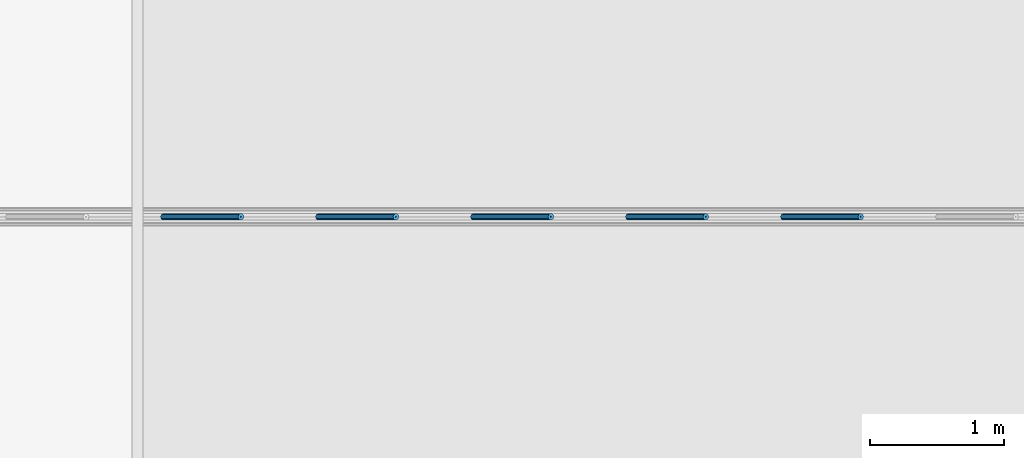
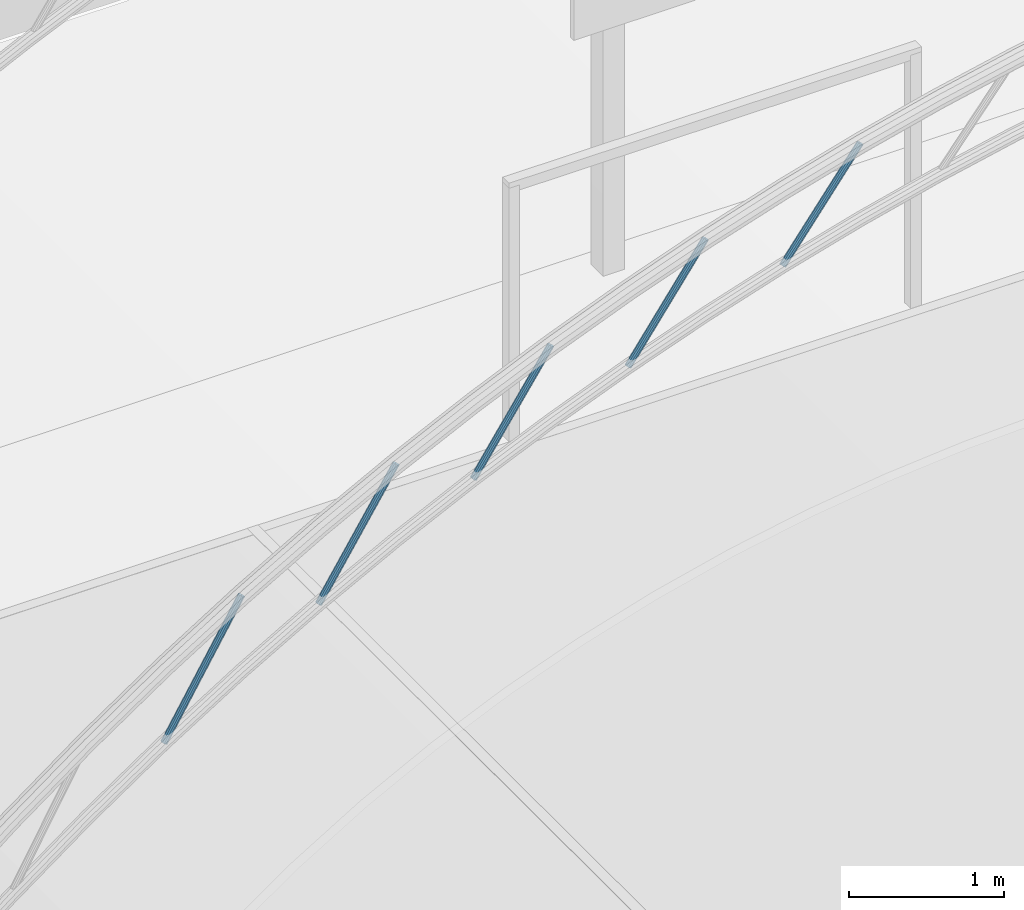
# One storey, part 20 of 151: 5 beams.
"""IFC2X3 building model written with IfcOpenShell, lengths in metres."""

from ifc_helpers import new_model, si_unit, origin, origin_with_axes, place, context, subcontext, project, spatial, faceted_brep, element, save


model = new_model("IFC2X3")

# Units and contexts
model_context = context("Model", 3, precision=1e-05, world=origin_with_axes())
body_context = subcontext(model_context, "Body", "Model", "MODEL_VIEW")
ifc_project = project(units=[si_unit("LENGTHUNIT", "METRE"), si_unit("AREAUNIT", "SQUARE_METRE"), si_unit("VOLUMEUNIT", "CUBIC_METRE"), si_unit("PLANEANGLEUNIT", "RADIAN")], contexts=[model_context])

# Site, building, storey
site_placement = place(None, origin_with_axes())
site = spatial("IfcSite", under=ifc_project, at=site_placement, Name="Predio Los Mangos - Morales, San Martín", CompositionType="ELEMENT")
building_placement = place(site_placement, origin())
building = spatial("IfcBuilding", under=site, at=building_placement, Name="Hogar de Refugio Temporal", CompositionType="ELEMENT")
storey_placement = place(building_placement, origin())
storey = spatial("IfcBuildingStorey", under=building, at=storey_placement, Name="NIVEL 1 (NPT +0.00)", CompositionType="ELEMENT", Elevation=0.0)

# Beams
beam_1_placement = place(storey_placement, origin())
element("IfcBeam", 1, at=beam_1_placement, inside=storey, Name="diag", ObjectType="Viga", context=body_context, shape_type="Brep", body=[
    faceted_brep([(5.2218, 115.555, 6.6398), (5.7993, 115.555, 7.6007), (5.81, 115.5583, 7.5943), (5.2325, 115.5583, 6.6333), (5.2139, 115.5458, 6.6445), (5.7914, 115.5458, 7.6055), (5.2111, 115.5333, 6.6462), (5.7886, 115.5333, 7.6072), (5.2139, 115.5208, 6.6445), (5.7914, 115.5208, 7.6055), (5.2218, 115.5117, 6.6398), (5.7993, 115.5117, 7.6007), (5.2325, 115.5083, 6.6333), (5.81, 115.5083, 7.5943), (5.2432, 115.5117, 6.6269), (5.8207, 115.5117, 7.5879), (5.2511, 115.5208, 6.6222), (5.8286, 115.5208, 7.5832), (5.2539, 115.5333, 6.6205), (5.8314, 115.5333, 7.5814), (5.2511, 115.5458, 6.6222), (5.8286, 115.5458, 7.5832), (5.2432, 115.555, 6.6269), (5.8207, 115.555, 7.5879), (5.2307, 115.5371, 6.6345), (5.2325, 115.5376, 6.6333), (5.81, 115.5376, 7.5943), (5.8082, 115.5371, 7.5954), (5.2293, 115.5355, 6.6353), (5.8068, 115.5355, 7.5962), (5.2288, 115.5333, 6.6356), (5.8063, 115.5333, 7.5965), (5.2293, 115.5312, 6.6353), (5.8068, 115.5312, 7.5962), (5.2307, 115.5296, 6.6345), (5.8082, 115.5296, 7.5954), (5.2325, 115.529, 6.6333), (5.81, 115.529, 7.5943), (5.2343, 115.5296, 6.6322), (5.8118, 115.5296, 7.5932), (5.2357, 115.5312, 6.6314), (5.8132, 115.5312, 7.5924), (5.2362, 115.5333, 6.6311), (5.8137, 115.5333, 7.5921), (5.2357, 115.5355, 6.6314), (5.8132, 115.5355, 7.5924), (5.2343, 115.5371, 6.6322), (5.8118, 115.5371, 7.5932)], [[[0, 1, 2, 3]], [[4, 5, 1, 0]], [[6, 7, 5, 4]], [[8, 9, 7, 6]], [[10, 11, 9, 8]], [[12, 13, 11, 10]], [[14, 15, 13, 12]], [[16, 17, 15, 14]], [[18, 19, 17, 16]], [[20, 21, 19, 18]], [[22, 23, 21, 20]], [[3, 2, 23, 22]], [[24, 25, 26, 27]], [[28, 24, 27, 29]], [[30, 28, 29, 31]], [[32, 30, 31, 33]], [[34, 32, 33, 35]], [[36, 34, 35, 37]], [[38, 36, 37, 39]], [[40, 38, 39, 41]], [[42, 40, 41, 43]], [[44, 42, 43, 45]], [[46, 44, 45, 47]], [[25, 46, 47, 26]], [[4, 0, 24, 28]], [[14, 12, 36, 38]], [[3, 22, 46, 25]], [[7, 9, 33, 31]], [[17, 19, 43, 41]], [[23, 2, 26, 47]], [[10, 8, 32, 34]], [[20, 18, 42, 44]], [[1, 5, 29, 27]], [[13, 15, 39, 37]], [[6, 4, 28, 30]], [[16, 14, 38, 40]], [[0, 3, 25, 24]], [[9, 11, 35, 33]], [[19, 21, 45, 43]], [[12, 10, 34, 36]], [[22, 20, 44, 46]], [[5, 7, 31, 29]], [[15, 17, 41, 39]], [[2, 1, 27, 26]], [[8, 6, 30, 32]], [[18, 16, 40, 42]], [[11, 13, 37, 35]], [[21, 23, 47, 45]]]),
])
beam_2_placement = place(storey_placement, origin())
element("IfcBeam", 2, at=beam_2_placement, inside=storey, Name="diag", ObjectType="Viga", context=body_context, shape_type="Brep", body=[
    faceted_brep([(6.377, 115.555, 7.3326), (6.9545, 115.555, 8.2366), (6.965, 115.5583, 8.2298), (6.3875, 115.5583, 7.3259), (6.3693, 115.5458, 7.3375), (6.9468, 115.5458, 8.2415), (6.3664, 115.5333, 7.3393), (6.9439, 115.5333, 8.2433), (6.3693, 115.5208, 7.3375), (6.9468, 115.5208, 8.2415), (6.377, 115.5117, 7.3326), (6.9545, 115.5117, 8.2366), (6.3875, 115.5083, 7.3259), (6.965, 115.5083, 8.2298), (6.398, 115.5117, 7.3191), (6.9755, 115.5117, 8.2231), (6.4057, 115.5208, 7.3142), (6.9832, 115.5208, 8.2182), (6.4086, 115.5333, 7.3124), (6.9861, 115.5333, 8.2164), (6.4057, 115.5458, 7.3142), (6.9832, 115.5458, 8.2182), (6.398, 115.555, 7.3191), (6.9755, 115.555, 8.2231), (6.3857, 115.5371, 7.327), (6.3875, 115.5376, 7.3259), (6.965, 115.5376, 8.2298), (6.9632, 115.5371, 8.231), (6.3844, 115.5355, 7.3279), (6.9619, 115.5355, 8.2318), (6.3839, 115.5333, 7.3282), (6.9614, 115.5333, 8.2321), (6.3844, 115.5312, 7.3279), (6.9619, 115.5312, 8.2318), (6.3857, 115.5296, 7.327), (6.9632, 115.5296, 8.231), (6.3875, 115.529, 7.3259), (6.965, 115.529, 8.2298), (6.3893, 115.5296, 7.3247), (6.9668, 115.5296, 8.2287), (6.3906, 115.5312, 7.3239), (6.9681, 115.5312, 8.2278), (6.3911, 115.5333, 7.3235), (6.9686, 115.5333, 8.2275), (6.3906, 115.5355, 7.3239), (6.9681, 115.5355, 8.2278), (6.3893, 115.5371, 7.3247), (6.9668, 115.5371, 8.2287)], [[[0, 1, 2, 3]], [[4, 5, 1, 0]], [[6, 7, 5, 4]], [[8, 9, 7, 6]], [[10, 11, 9, 8]], [[12, 13, 11, 10]], [[14, 15, 13, 12]], [[16, 17, 15, 14]], [[18, 19, 17, 16]], [[20, 21, 19, 18]], [[22, 23, 21, 20]], [[3, 2, 23, 22]], [[24, 25, 26, 27]], [[28, 24, 27, 29]], [[30, 28, 29, 31]], [[32, 30, 31, 33]], [[34, 32, 33, 35]], [[36, 34, 35, 37]], [[38, 36, 37, 39]], [[40, 38, 39, 41]], [[42, 40, 41, 43]], [[44, 42, 43, 45]], [[46, 44, 45, 47]], [[25, 46, 47, 26]], [[4, 0, 24, 28]], [[14, 12, 36, 38]], [[3, 22, 46, 25]], [[7, 9, 33, 31]], [[17, 19, 43, 41]], [[23, 2, 26, 47]], [[10, 8, 32, 34]], [[20, 18, 42, 44]], [[1, 5, 29, 27]], [[13, 15, 39, 37]], [[6, 4, 28, 30]], [[16, 14, 38, 40]], [[0, 3, 25, 24]], [[9, 11, 35, 33]], [[19, 21, 45, 43]], [[12, 10, 34, 36]], [[22, 20, 44, 46]], [[5, 7, 31, 29]], [[15, 17, 41, 39]], [[2, 1, 27, 26]], [[8, 6, 30, 32]], [[18, 16, 40, 42]], [[11, 13, 37, 35]], [[21, 23, 47, 45]]]),
])
beam_3_placement = place(storey_placement, origin())
element("IfcBeam", 3, at=beam_3_placement, inside=storey, Name="diag", ObjectType="Viga", context=body_context, shape_type="Brep", body=[
    faceted_brep([(7.5321, 115.555, 7.9148), (8.1096, 115.555, 8.7679), (8.12, 115.5583, 8.7609), (7.5425, 115.5583, 7.9077), (7.5246, 115.5458, 7.9199), (8.1021, 115.5458, 8.7731), (7.5218, 115.5333, 7.9218), (8.0993, 115.5333, 8.7749), (7.5246, 115.5208, 7.9199), (8.1021, 115.5208, 8.7731), (7.5321, 115.5117, 7.9148), (8.1096, 115.5117, 8.7679), (7.5425, 115.5083, 7.9077), (8.12, 115.5083, 8.7609), (7.5529, 115.5117, 7.9007), (8.1304, 115.5117, 8.7539), (7.5604, 115.5208, 7.8956), (8.1379, 115.5208, 8.7488), (7.5632, 115.5333, 7.8937), (8.1407, 115.5333, 8.7469), (7.5604, 115.5458, 7.8956), (8.1379, 115.5458, 8.7488), (7.5529, 115.555, 7.9007), (8.1304, 115.555, 8.7539), (7.5407, 115.5371, 7.9089), (7.5425, 115.5376, 7.9077), (8.12, 115.5376, 8.7609), (8.1182, 115.5371, 8.7621), (7.5394, 115.5355, 7.9098), (8.1169, 115.5355, 8.763), (7.5389, 115.5333, 7.9102), (8.1164, 115.5333, 8.7633), (7.5394, 115.5312, 7.9098), (8.1169, 115.5312, 8.763), (7.5407, 115.5296, 7.9089), (8.1182, 115.5296, 8.7621), (7.5425, 115.529, 7.9077), (8.12, 115.529, 8.7609), (7.5443, 115.5296, 7.9065), (8.1218, 115.5296, 8.7597), (7.5456, 115.5312, 7.9057), (8.1231, 115.5312, 8.7588), (7.5461, 115.5333, 7.9053), (8.1236, 115.5333, 8.7585), (7.5456, 115.5355, 7.9057), (8.1231, 115.5355, 8.7588), (7.5443, 115.5371, 7.9065), (8.1218, 115.5371, 8.7597)], [[[0, 1, 2, 3]], [[4, 5, 1, 0]], [[6, 7, 5, 4]], [[8, 9, 7, 6]], [[10, 11, 9, 8]], [[12, 13, 11, 10]], [[14, 15, 13, 12]], [[16, 17, 15, 14]], [[18, 19, 17, 16]], [[20, 21, 19, 18]], [[22, 23, 21, 20]], [[3, 2, 23, 22]], [[24, 25, 26, 27]], [[28, 24, 27, 29]], [[30, 28, 29, 31]], [[32, 30, 31, 33]], [[34, 32, 33, 35]], [[36, 34, 35, 37]], [[38, 36, 37, 39]], [[40, 38, 39, 41]], [[42, 40, 41, 43]], [[44, 42, 43, 45]], [[46, 44, 45, 47]], [[25, 46, 47, 26]], [[4, 0, 24, 28]], [[14, 12, 36, 38]], [[3, 22, 46, 25]], [[7, 9, 33, 31]], [[17, 19, 43, 41]], [[23, 2, 26, 47]], [[10, 8, 32, 34]], [[20, 18, 42, 44]], [[1, 5, 29, 27]], [[13, 15, 39, 37]], [[6, 4, 28, 30]], [[16, 14, 38, 40]], [[0, 3, 25, 24]], [[9, 11, 35, 33]], [[19, 21, 45, 43]], [[12, 10, 34, 36]], [[22, 20, 44, 46]], [[5, 7, 31, 29]], [[15, 17, 41, 39]], [[2, 1, 27, 26]], [[8, 6, 30, 32]], [[18, 16, 40, 42]], [[11, 13, 37, 35]], [[21, 23, 47, 45]]]),
])
beam_4_placement = place(storey_placement, origin())
element("IfcBeam", 4, at=beam_4_placement, inside=storey, Name="diag", ObjectType="Viga", context=body_context, shape_type="Brep", body=[
    faceted_brep([(8.6873, 115.555, 8.3978), (9.2648, 115.555, 9.2047), (9.275, 115.5583, 9.1974), (8.6975, 115.5583, 8.3905), (8.6799, 115.5458, 8.4031), (9.2574, 115.5458, 9.21), (8.6772, 115.5333, 8.405), (9.2547, 115.5333, 9.2119), (8.6799, 115.5208, 8.4031), (9.2574, 115.5208, 9.21), (8.6873, 115.5117, 8.3978), (9.2648, 115.5117, 9.2047), (8.6975, 115.5083, 8.3905), (9.275, 115.5083, 9.1974), (8.7077, 115.5117, 8.3832), (9.2852, 115.5117, 9.1901), (8.7151, 115.5208, 8.3779), (9.2926, 115.5208, 9.1848), (8.7178, 115.5333, 8.3759), (9.2953, 115.5333, 9.1828), (8.7151, 115.5458, 8.3779), (9.2926, 115.5458, 9.1848), (8.7077, 115.555, 8.3832), (9.2852, 115.555, 9.1901), (8.6958, 115.5371, 8.3917), (8.6975, 115.5376, 8.3905), (9.275, 115.5376, 9.1974), (9.2733, 115.5371, 9.1986), (8.6945, 115.5355, 8.3927), (9.272, 115.5355, 9.1996), (8.694, 115.5333, 8.393), (9.2715, 115.5333, 9.1999), (8.6945, 115.5312, 8.3927), (9.272, 115.5312, 9.1996), (8.6958, 115.5296, 8.3917), (9.2733, 115.5296, 9.1986), (8.6975, 115.529, 8.3905), (9.275, 115.529, 9.1974), (8.6992, 115.5296, 8.3892), (9.2767, 115.5296, 9.1961), (8.7005, 115.5312, 8.3883), (9.278, 115.5312, 9.1952), (8.701, 115.5333, 8.388), (9.2785, 115.5333, 9.1949), (8.7005, 115.5355, 8.3883), (9.278, 115.5355, 9.1952), (8.6992, 115.5371, 8.3892), (9.2767, 115.5371, 9.1961)], [[[0, 1, 2, 3]], [[4, 5, 1, 0]], [[6, 7, 5, 4]], [[8, 9, 7, 6]], [[10, 11, 9, 8]], [[12, 13, 11, 10]], [[14, 15, 13, 12]], [[16, 17, 15, 14]], [[18, 19, 17, 16]], [[20, 21, 19, 18]], [[22, 23, 21, 20]], [[3, 2, 23, 22]], [[24, 25, 26, 27]], [[28, 24, 27, 29]], [[30, 28, 29, 31]], [[32, 30, 31, 33]], [[34, 32, 33, 35]], [[36, 34, 35, 37]], [[38, 36, 37, 39]], [[40, 38, 39, 41]], [[42, 40, 41, 43]], [[44, 42, 43, 45]], [[46, 44, 45, 47]], [[25, 46, 47, 26]], [[15, 17, 41, 39]], [[2, 1, 27, 26]], [[8, 6, 30, 32]], [[18, 16, 40, 42]], [[11, 13, 37, 35]], [[21, 23, 47, 45]], [[4, 0, 24, 28]], [[14, 12, 36, 38]], [[3, 22, 46, 25]], [[7, 9, 33, 31]], [[17, 19, 43, 41]], [[23, 2, 26, 47]], [[10, 8, 32, 34]], [[20, 18, 42, 44]], [[1, 5, 29, 27]], [[13, 15, 39, 37]], [[6, 4, 28, 30]], [[16, 14, 38, 40]], [[0, 3, 25, 24]], [[9, 11, 35, 33]], [[19, 21, 45, 43]], [[12, 10, 34, 36]], [[22, 20, 44, 46]], [[5, 7, 31, 29]]]),
])
beam_5_placement = place(storey_placement, origin())
element("IfcBeam", 5, at=beam_5_placement, inside=storey, Name="diag", ObjectType="Viga", context=body_context, shape_type="Brep", body=[
    faceted_brep([(9.8425, 115.555, 8.79), (10.42, 115.555, 9.5539), (10.43, 115.5583, 9.5463), (9.8525, 115.5583, 8.7824), (9.8352, 115.5458, 8.7955), (10.4127, 115.5458, 9.5594), (9.8326, 115.5333, 8.7975), (10.4101, 115.5333, 9.5614), (9.8352, 115.5208, 8.7955), (10.4127, 115.5208, 9.5594), (9.8425, 115.5117, 8.79), (10.42, 115.5117, 9.5539), (9.8525, 115.5083, 8.7824), (10.43, 115.5083, 9.5463), (9.8625, 115.5117, 8.7749), (10.44, 115.5117, 9.5388), (9.8698, 115.5208, 8.7694), (10.4473, 115.5208, 9.5333), (9.8724, 115.5333, 8.7674), (10.4499, 115.5333, 9.5313), (9.8698, 115.5458, 8.7694), (10.4473, 115.5458, 9.5333), (9.8625, 115.555, 8.7749), (10.44, 115.555, 9.5388), (9.8508, 115.5371, 8.7837), (9.8525, 115.5376, 8.7824), (10.43, 115.5376, 9.5463), (10.4283, 115.5371, 9.5476), (9.8495, 115.5355, 8.7847), (10.427, 115.5355, 9.5486), (9.8491, 115.5333, 8.785), (10.4266, 115.5333, 9.5489), (9.8495, 115.5312, 8.7847), (10.427, 115.5312, 9.5486), (9.8508, 115.5296, 8.7837), (10.4283, 115.5296, 9.5476), (9.8525, 115.529, 8.7824), (10.43, 115.529, 9.5463), (9.8542, 115.5296, 8.7812), (10.4317, 115.5296, 9.5451), (9.8555, 115.5312, 8.7802), (10.433, 115.5312, 9.5441), (9.8559, 115.5333, 8.7799), (10.4334, 115.5333, 9.5438), (9.8555, 115.5355, 8.7802), (10.433, 115.5355, 9.5441), (9.8542, 115.5371, 8.7812), (10.4317, 115.5371, 9.5451)], [[[0, 1, 2, 3]], [[4, 5, 1, 0]], [[6, 7, 5, 4]], [[8, 9, 7, 6]], [[10, 11, 9, 8]], [[12, 13, 11, 10]], [[14, 15, 13, 12]], [[16, 17, 15, 14]], [[18, 19, 17, 16]], [[20, 21, 19, 18]], [[22, 23, 21, 20]], [[3, 2, 23, 22]], [[24, 25, 26, 27]], [[28, 24, 27, 29]], [[30, 28, 29, 31]], [[32, 30, 31, 33]], [[34, 32, 33, 35]], [[36, 34, 35, 37]], [[38, 36, 37, 39]], [[40, 38, 39, 41]], [[42, 40, 41, 43]], [[44, 42, 43, 45]], [[46, 44, 45, 47]], [[25, 46, 47, 26]], [[23, 2, 26, 47]], [[10, 8, 32, 34]], [[20, 18, 42, 44]], [[1, 5, 29, 27]], [[13, 15, 39, 37]], [[6, 4, 28, 30]], [[16, 14, 38, 40]], [[0, 3, 25, 24]], [[9, 11, 35, 33]], [[19, 21, 45, 43]], [[12, 10, 34, 36]], [[22, 20, 44, 46]], [[5, 7, 31, 29]], [[15, 17, 41, 39]], [[2, 1, 27, 26]], [[8, 6, 30, 32]], [[18, 16, 40, 42]], [[11, 13, 37, 35]], [[21, 23, 47, 45]], [[4, 0, 24, 28]], [[14, 12, 36, 38]], [[3, 22, 46, 25]], [[7, 9, 33, 31]], [[17, 19, 43, 41]]]),
])

save(model, "model.ifc")
